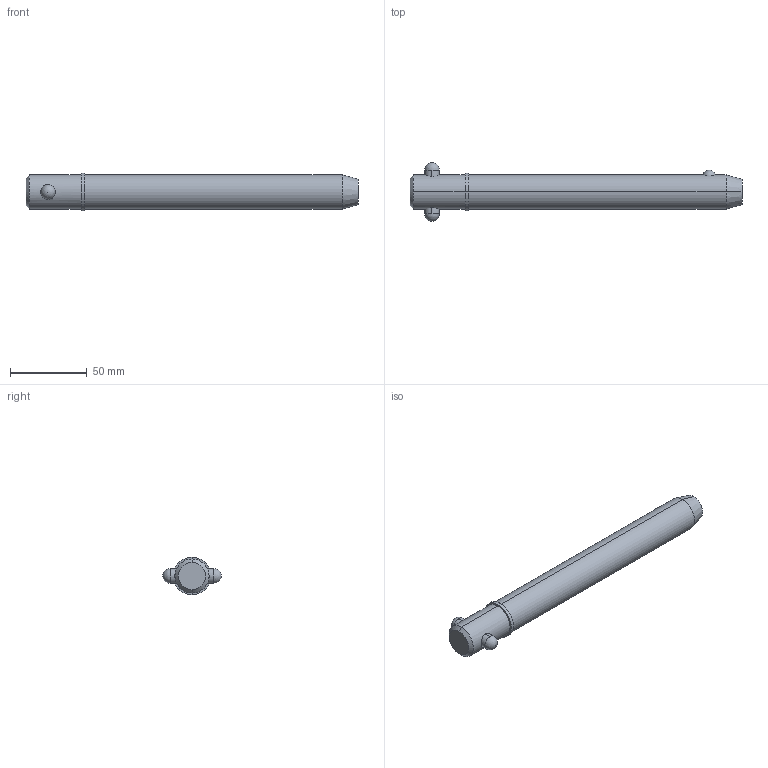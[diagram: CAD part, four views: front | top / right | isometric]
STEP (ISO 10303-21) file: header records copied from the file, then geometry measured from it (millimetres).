
FILE_DESCRIPTION (( 'STEP AP203' ), '1' );
FILE_NAME ('33018.W8860.step', '2024-11-19T17:23:10', ( '' ), ( '' ), 'SwSTEP 2.0', 'SolidWorks 2019', '' );
FILE_SCHEMA (( 'CONFIG_CONTROL_DESIGN' ));
Length unit declared in the file: millimetre
Products named in the file (3): Part1_33018.W8860; Part2_33018.W8860; 33018.W8860
Assembly tree (2 placements, depth 2):
  33018.W8860
    Part1_33018.W8860
    Part2_33018.W8860
Bounding box: 215.9 x 38.1 x 24.45 mm (x, y, z)
Volume: 83938 mm3; surface area: 17361.3 mm2
Topology: 2 solids, 2 shells, 22 faces, 47 edges, 30 vertices
Faces by surface type: cylinder 10, sphere 4, cone 4, plane 4
Entity records: 1057 total; most frequent: CARTESIAN_POINT 300, DIRECTION 110, ORIENTED_EDGE 82, AXIS2_PLACEMENT_3D 48, EDGE_CURVE 41, EDGE_LOOP 27, PERSON_AND_ORGANIZATION 26, VERTEX_POINT 26
